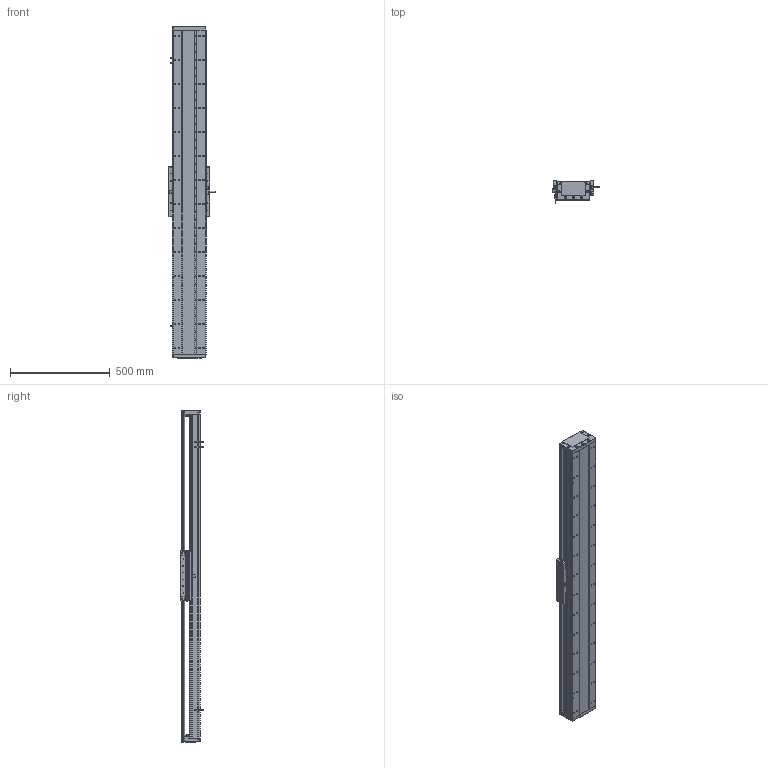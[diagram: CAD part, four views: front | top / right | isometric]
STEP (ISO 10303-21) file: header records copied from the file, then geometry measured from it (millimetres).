
FILE_DESCRIPTION (( 'STEP AP203' ), '1' );
FILE_NAME ('DA-C165-C3-T1320-C010-0.2 直线电机.STEP', '2023-06-13T08:44:48', ( '微软用户' ), ( '微软中国' ), 'SwSTEP 2.0', 'SolidWorks 2019', '' );
FILE_SCHEMA (( 'CONFIG_CONTROL_DESIGN' ));
Length unit declared in the file: millimetre
Products named in the file (15): 复件 DA95-HXJ-00 缓冲橡胶^DA-C165-C3-T-C010-0.2-N 直线电机; 复件 CU165 底座^IU-CU165-L 底座导轨_L1620; 复件 DA165-DG-H-N-00 端盖^DA-C165-C3-T-C010-0.2-N 直线电机; 葩璃 CKM03-W075-C1C2-TP-3.0^DA-C165-C3-T-C010-0.2-N 眻盄萇儂; 复件 DMA-010-0.2 读数头^DA-C165-C3-T-C010-0.2-N 直线电机; 珨极趙賑雄怢啣C3-wf; DA-C165-C3-T1320-C010-0.2 眻盄萇儂; 复件 XD-U-02L 磁栅尺^DA-C165-C3-T-C010-0.2-N 直线电机_T; 复件 DA165-T-002-00 盖板^DA-C165-C3-T-C010-0.2-N 直线电机_0840-002-00; 复件 DA165-GYP-00 光电感应片^DA-C165-C3-T-C010-0.2-N 直线电机; 葩璃 PM-T45^DA-C165-C3-T-C010-0.2-N 眻盄萇儂; 葩璃 CKM01-W075-TRL^DA-C165-C3-T-C010-0.2-N 眻盄萇儂; IU-CU165-L 菁釱絳寢; 葩璃 DA95-GT-T-00^IU-CU165-L 菁釱絳寢_T; 复件 六角薄螺母 M3^DA-C165-C3-T-C010-0.2-N 直线电机_GB_FASTENER_NUT_STNAB M3-C
Assembly tree (30 placements, depth 3):
  DA-C165-C3-T1320-C010-0.2 眻盄萇儂
    IU-CU165-L 菁釱絳寢
      复件 CU165 底座^IU-CU165-L 底座导轨_L1620
      葩璃 DA95-GT-T-00^IU-CU165-L 菁釱絳寢_T  x4
    复件 DA165-DG-H-N-00 端盖^DA-C165-C3-T-C010-0.2-N 直线电机  x2
    复件 DA95-HXJ-00 缓冲橡胶^DA-C165-C3-T-C010-0.2-N 直线电机  x4
    复件 DA165-T-002-00 盖板^DA-C165-C3-T-C010-0.2-N 直线电机_0840-002-00
    复件 XD-U-02L 磁栅尺^DA-C165-C3-T-C010-0.2-N 直线电机_T
    葩璃 PM-T45^DA-C165-C3-T-C010-0.2-N 眻盄萇儂  x3
    葩璃 CKM01-W075-TRL^DA-C165-C3-T-C010-0.2-N 眻盄萇儂
    复件 DA165-GYP-00 光电感应片^DA-C165-C3-T-C010-0.2-N 直线电机
    复件 DMA-010-0.2 读数头^DA-C165-C3-T-C010-0.2-N 直线电机
    葩璃 CKM03-W075-C1C2-TP-3.0^DA-C165-C3-T-C010-0.2-N 眻盄萇儂
    复件 六角薄螺母 M3^DA-C165-C3-T-C010-0.2-N 直线电机_GB_FASTENER_NUT_STNAB M3-C  x8
    珨极趙賑雄怢啣C3-wf
Bounding box: 233 x 111.45 x 1660 mm (x, y, z)
Volume: 11576457.7 mm3; surface area: 3211230 mm2
Topology: 68 solids, 118 shells, 3855 faces, 10650 edges, 6662 vertices
Faces by surface type: cylinder 2050, plane 1195, cone 552, torus 54, sphere 4
Entity records: 120497 total; most frequent: CARTESIAN_POINT 30418, DIRECTION 18530, ORIENTED_EDGE 18354, EDGE_CURVE 9177, AXIS2_PLACEMENT_3D 7056, VERTEX_POINT 5950, LINE 4418, VECTOR 4418
